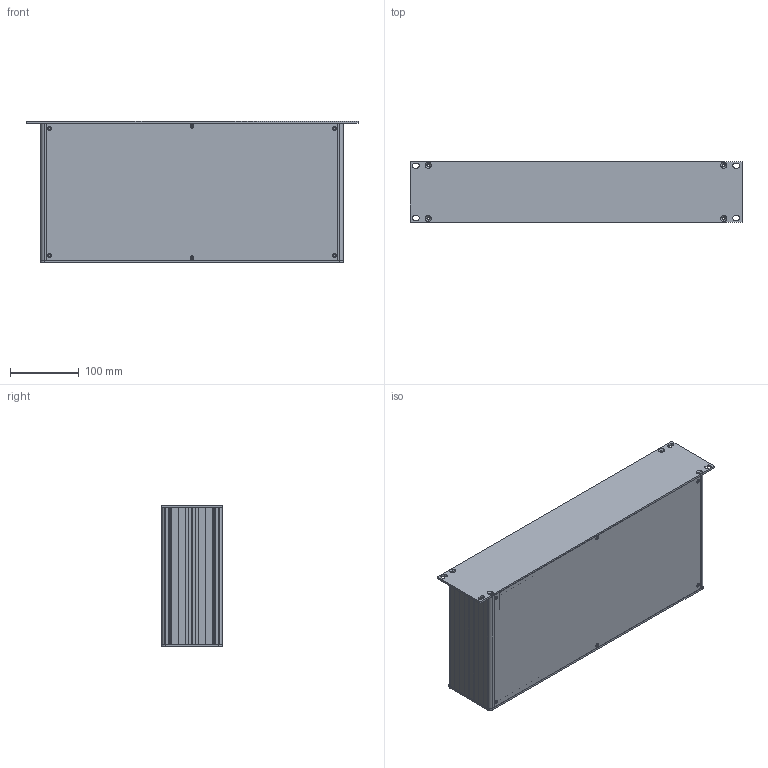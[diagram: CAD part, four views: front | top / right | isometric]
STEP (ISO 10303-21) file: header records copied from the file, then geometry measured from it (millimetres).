
FILE_DESCRIPTION (( 'STEP AP203' ), '1' );
FILE_NAME ('RM-120-0-0.STEP', '2020-10-19T06:56:54', ( '' ), ( '' ), 'SwSTEP 2.0', 'SolidWorks 2020', '' );
FILE_SCHEMA (( 'CONFIG_CONTROL_DESIGN' ));
Length unit declared in the file: millimetre
Products named in the file (6): 2U_arka_panel; ust_alt_panel_2; ust_alt_panel_14 cm; 2U_on_panel; AP-220_14 cm; RM-120-0-0
Assembly tree (6 placements, depth 2):
  RM-120-0-0
    2U_on_panel
    AP-220_14 cm  x2
    2U_arka_panel
    ust_alt_panel_14 cm
    ust_alt_panel_2
Bounding box: 482.6 x 88.1 x 206 mm (x, y, z)
Volume: 637347.6 mm3; surface area: 681096 mm2
Topology: 6 solids, 6 shells, 1368 faces, 4044 edges, 2688 vertices
Faces by surface type: plane 728, cylinder 600, cone 40
Entity records: 33726 total; most frequent: DIRECTION 5788, CARTESIAN_POINT 5783, ORIENTED_EDGE 5724, EDGE_CURVE 2862, AXIS2_PLACEMENT_3D 1953, VERTEX_POINT 1900, LINE 1882, VECTOR 1882
